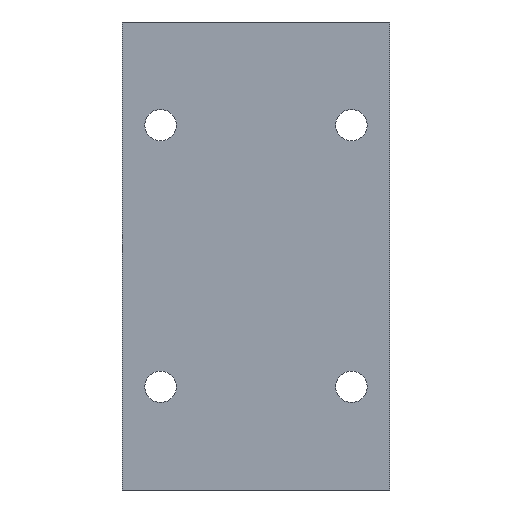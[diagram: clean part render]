
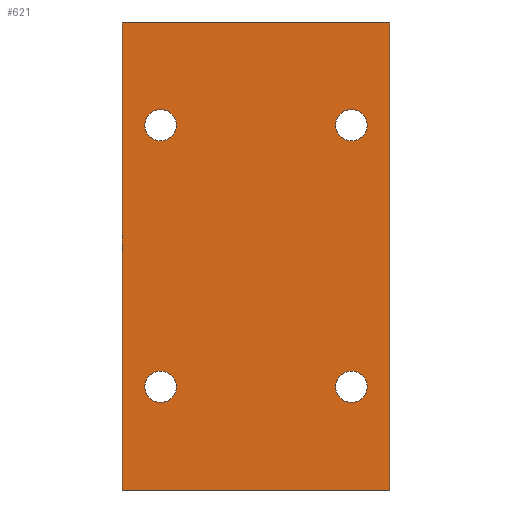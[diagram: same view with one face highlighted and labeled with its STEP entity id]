
A CAD part, front view. The second image highlights one B-rep face of the part: STEP entity #621.
In plain terms, the highlighted planar face has unit normal (0, -1, 0).
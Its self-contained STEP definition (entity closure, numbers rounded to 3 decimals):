
#36 = AXIS2_PLACEMENT_3D ( 'NONE', #79, #1454, #776 ) ;
#46 = CIRCLE ( 'NONE', #1010, 5.1 ) ;
#70 = DIRECTION ( 'NONE',  ( 0., 0., 1. ) ) ;
#79 = CARTESIAN_POINT ( 'NONE',  ( 31., -35., -42.5 ) ) ;
#98 = VECTOR ( 'NONE', #2170, 1000. ) ;
#163 = CARTESIAN_POINT ( 'NONE',  ( -43.5, -35., -76. ) ) ;
#230 = PLANE ( 'NONE',  #383 ) ;
#259 = CIRCLE ( 'NONE', #293, 5.1 ) ;
#264 = EDGE_LOOP ( 'NONE', ( #925, #1731 ) ) ;
#293 = AXIS2_PLACEMENT_3D ( 'NONE', #1905, #1561, #908 ) ;
#318 = LINE ( 'NONE', #2227, #2238 ) ;
#321 = CARTESIAN_POINT ( 'NONE',  ( -31., -35., 42.5 ) ) ;
#355 = EDGE_CURVE ( 'NONE', #1000, #1894, #2043, .T. ) ;
#364 = AXIS2_PLACEMENT_3D ( 'NONE', #1511, #1298, #793 ) ;
#370 = AXIS2_PLACEMENT_3D ( 'NONE', #321, #1713, #1514 ) ;
#383 = AXIS2_PLACEMENT_3D ( 'NONE', #744, #1970, #70 ) ;
#414 = FACE_BOUND ( 'NONE', #2038, .T. ) ;
#415 = LINE ( 'NONE', #2117, #873 ) ;
#419 = LINE ( 'NONE', #944, #500 ) ;
#444 = VERTEX_POINT ( 'NONE', #1527 ) ;
#500 = VECTOR ( 'NONE', #2123, 1000. ) ;
#573 = CIRCLE ( 'NONE', #1832, 5.1 ) ;
#579 = CARTESIAN_POINT ( 'NONE',  ( 31., -35., -42.5 ) ) ;
#581 = FACE_BOUND ( 'NONE', #2078, .T. ) ;
#585 = CIRCLE ( 'NONE', #1412, 5.1 ) ;
#590 = VERTEX_POINT ( 'NONE', #1624 ) ;
#594 = VERTEX_POINT ( 'NONE', #1766 ) ;
#605 = VERTEX_POINT ( 'NONE', #1270 ) ;
#609 = CIRCLE ( 'NONE', #36, 5.1 ) ;
#621 = ADVANCED_FACE ( 'NONE', ( #1259, #2108, #936, #414, #581 ), #230, .F. ) ;
#634 = CARTESIAN_POINT ( 'NONE',  ( 31., -35., -47.6 ) ) ;
#650 = DIRECTION ( 'NONE',  ( 0., 0., -1. ) ) ;
#692 = ORIENTED_EDGE ( 'NONE', *, *, #1805, .F. ) ;
#718 = EDGE_CURVE ( 'NONE', #1559, #1927, #585, .T. ) ;
#734 = VERTEX_POINT ( 'NONE', #634 ) ;
#740 = DIRECTION ( 'NONE',  ( 0., 0., -1. ) ) ;
#744 = CARTESIAN_POINT ( 'NONE',  ( -43.5, -35., 76. ) ) ;
#750 = EDGE_CURVE ( 'NONE', #1927, #1559, #46, .T. ) ;
#776 = DIRECTION ( 'NONE',  ( 0., 0., -1. ) ) ;
#793 = DIRECTION ( 'NONE',  ( 0., 0., -1. ) ) ;
#799 = CARTESIAN_POINT ( 'NONE',  ( -31., -35., -42.5 ) ) ;
#835 = DIRECTION ( 'NONE',  ( 0., -1., 0. ) ) ;
#836 = ORIENTED_EDGE ( 'NONE', *, *, #1488, .F. ) ;
#839 = CARTESIAN_POINT ( 'NONE',  ( -31., -35., -47.6 ) ) ;
#873 = VECTOR ( 'NONE', #2110, 1000. ) ;
#908 = DIRECTION ( 'NONE',  ( 0., 0., -1. ) ) ;
#925 = ORIENTED_EDGE ( 'NONE', *, *, #2156, .F. ) ;
#936 = FACE_BOUND ( 'NONE', #960, .T. ) ;
#944 = CARTESIAN_POINT ( 'NONE',  ( -43.5, -35., 76. ) ) ;
#960 = EDGE_LOOP ( 'NONE', ( #836, #1825 ) ) ;
#1000 = VERTEX_POINT ( 'NONE', #1906 ) ;
#1010 = AXIS2_PLACEMENT_3D ( 'NONE', #799, #835, #1831 ) ;
#1077 = AXIS2_PLACEMENT_3D ( 'NONE', #1374, #1150, #1666 ) ;
#1126 = VERTEX_POINT ( 'NONE', #1428 ) ;
#1150 = DIRECTION ( 'NONE',  ( 0., -1., 0. ) ) ;
#1169 = CARTESIAN_POINT ( 'NONE',  ( 31., -35., 37.4 ) ) ;
#1259 = FACE_BOUND ( 'NONE', #264, .T. ) ;
#1270 = CARTESIAN_POINT ( 'NONE',  ( -43.5, -35., 76. ) ) ;
#1298 = DIRECTION ( 'NONE',  ( 0., -1., 0. ) ) ;
#1320 = ORIENTED_EDGE ( 'NONE', *, *, #1431, .F. ) ;
#1337 = DIRECTION ( 'NONE',  ( 0., -1., 0. ) ) ;
#1374 = CARTESIAN_POINT ( 'NONE',  ( 31., -35., 42.5 ) ) ;
#1383 = ORIENTED_EDGE ( 'NONE', *, *, #1518, .F. ) ;
#1405 = EDGE_CURVE ( 'NONE', #590, #734, #573, .T. ) ;
#1412 = AXIS2_PLACEMENT_3D ( 'NONE', #2162, #1337, #650 ) ;
#1428 = CARTESIAN_POINT ( 'NONE',  ( -31., -35., 37.4 ) ) ;
#1431 = EDGE_CURVE ( 'NONE', #605, #594, #419, .T. ) ;
#1454 = DIRECTION ( 'NONE',  ( 0., -1., 0. ) ) ;
#1473 = ORIENTED_EDGE ( 'NONE', *, *, #1405, .F. ) ;
#1488 = EDGE_CURVE ( 'NONE', #1894, #1000, #1547, .T. ) ;
#1501 = ORIENTED_EDGE ( 'NONE', *, *, #1605, .T. ) ;
#1511 = CARTESIAN_POINT ( 'NONE',  ( 31., -35., 42.5 ) ) ;
#1514 = DIRECTION ( 'NONE',  ( 0., 0., -1. ) ) ;
#1518 = EDGE_CURVE ( 'NONE', #594, #1999, #1814, .T. ) ;
#1527 = CARTESIAN_POINT ( 'NONE',  ( -31., -35., 47.6 ) ) ;
#1547 = CIRCLE ( 'NONE', #364, 5.1 ) ;
#1559 = VERTEX_POINT ( 'NONE', #1657 ) ;
#1561 = DIRECTION ( 'NONE',  ( 0., -1., 0. ) ) ;
#1605 = EDGE_CURVE ( 'NONE', #605, #2148, #318, .T. ) ;
#1614 = ORIENTED_EDGE ( 'NONE', *, *, #1729, .T. ) ;
#1624 = CARTESIAN_POINT ( 'NONE',  ( 31., -35., -37.4 ) ) ;
#1657 = CARTESIAN_POINT ( 'NONE',  ( -31., -35., -37.4 ) ) ;
#1666 = DIRECTION ( 'NONE',  ( 0., 0., -1. ) ) ;
#1713 = DIRECTION ( 'NONE',  ( 0., -1., 0. ) ) ;
#1721 = EDGE_LOOP ( 'NONE', ( #1614, #1383, #1320, #1501 ) ) ;
#1729 = EDGE_CURVE ( 'NONE', #2148, #1999, #415, .T. ) ;
#1731 = ORIENTED_EDGE ( 'NONE', *, *, #2244, .F. ) ;
#1766 = CARTESIAN_POINT ( 'NONE',  ( 43.5, -35., 76. ) ) ;
#1803 = ORIENTED_EDGE ( 'NONE', *, *, #718, .F. ) ;
#1805 = EDGE_CURVE ( 'NONE', #734, #590, #609, .T. ) ;
#1814 = LINE ( 'NONE', #2191, #98 ) ;
#1825 = ORIENTED_EDGE ( 'NONE', *, *, #355, .F. ) ;
#1831 = DIRECTION ( 'NONE',  ( 0., 0., -1. ) ) ;
#1832 = AXIS2_PLACEMENT_3D ( 'NONE', #579, #1946, #740 ) ;
#1846 = ORIENTED_EDGE ( 'NONE', *, *, #750, .F. ) ;
#1890 = DIRECTION ( 'NONE',  ( 0., 0., -1. ) ) ;
#1894 = VERTEX_POINT ( 'NONE', #1169 ) ;
#1905 = CARTESIAN_POINT ( 'NONE',  ( -31., -35., 42.5 ) ) ;
#1906 = CARTESIAN_POINT ( 'NONE',  ( 31., -35., 47.6 ) ) ;
#1927 = VERTEX_POINT ( 'NONE', #839 ) ;
#1946 = DIRECTION ( 'NONE',  ( 0., -1., 0. ) ) ;
#1970 = DIRECTION ( 'NONE',  ( 0., 1., 0. ) ) ;
#1999 = VERTEX_POINT ( 'NONE', #2024 ) ;
#2024 = CARTESIAN_POINT ( 'NONE',  ( 43.5, -35., -76. ) ) ;
#2038 = EDGE_LOOP ( 'NONE', ( #1846, #1803 ) ) ;
#2043 = CIRCLE ( 'NONE', #1077, 5.1 ) ;
#2078 = EDGE_LOOP ( 'NONE', ( #692, #1473 ) ) ;
#2108 = FACE_OUTER_BOUND ( 'NONE', #1721, .T. ) ;
#2110 = DIRECTION ( 'NONE',  ( 1., 0., 0. ) ) ;
#2117 = CARTESIAN_POINT ( 'NONE',  ( -43.5, -35., -76. ) ) ;
#2123 = DIRECTION ( 'NONE',  ( 1., 0., 0. ) ) ;
#2130 = CIRCLE ( 'NONE', #370, 5.1 ) ;
#2148 = VERTEX_POINT ( 'NONE', #163 ) ;
#2156 = EDGE_CURVE ( 'NONE', #1126, #444, #2130, .T. ) ;
#2162 = CARTESIAN_POINT ( 'NONE',  ( -31., -35., -42.5 ) ) ;
#2170 = DIRECTION ( 'NONE',  ( 0., 0., -1. ) ) ;
#2191 = CARTESIAN_POINT ( 'NONE',  ( 43.5, -35., 76. ) ) ;
#2227 = CARTESIAN_POINT ( 'NONE',  ( -43.5, -35., 76. ) ) ;
#2238 = VECTOR ( 'NONE', #1890, 1000. ) ;
#2244 = EDGE_CURVE ( 'NONE', #444, #1126, #259, .T. ) ;
